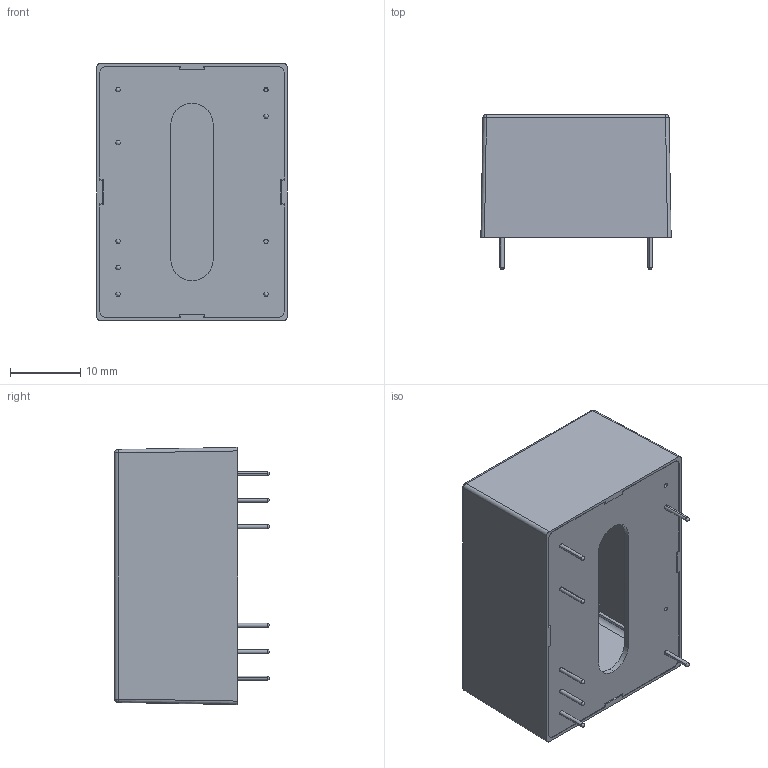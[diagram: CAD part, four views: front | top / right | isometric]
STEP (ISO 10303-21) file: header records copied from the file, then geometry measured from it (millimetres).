
FILE_DESCRIPTION (( 'STEP AP214' ), '1' );
FILE_NAME ('tmpm04dual.STEP', '2014-09-15T14:13:40', ( '' ), ( '' ), 'SwSTEP 2.0', 'SolidWorks 2013', '' );
FILE_SCHEMA (( 'AUTOMOTIVE_DESIGN' ));
Length unit declared in the file: millimetre
Products named in the file (4): Pin 7; tmpm04dual; Case; Base
Assembly tree (9 placements, depth 2):
  tmpm04dual
    Pin 7  x7
    Base
    Case
Bounding box: 27 x 21.95 x 36.5 mm (x, y, z)
Surface area: 6465.4 mm2
Topology: 7 solids, 16 shells, 329 faces, 856 edges, 554 vertices
Faces by surface type: plane 167, cylinder 95, bspline 49, cone 18
Entity records: 9830 total; most frequent: CARTESIAN_POINT 3174, ORIENTED_EDGE 1307, DIRECTION 1268, EDGE_CURVE 734, LINE 508, VECTOR 508, VERTEX_POINT 482, AXIS2_PLACEMENT_3D 380
